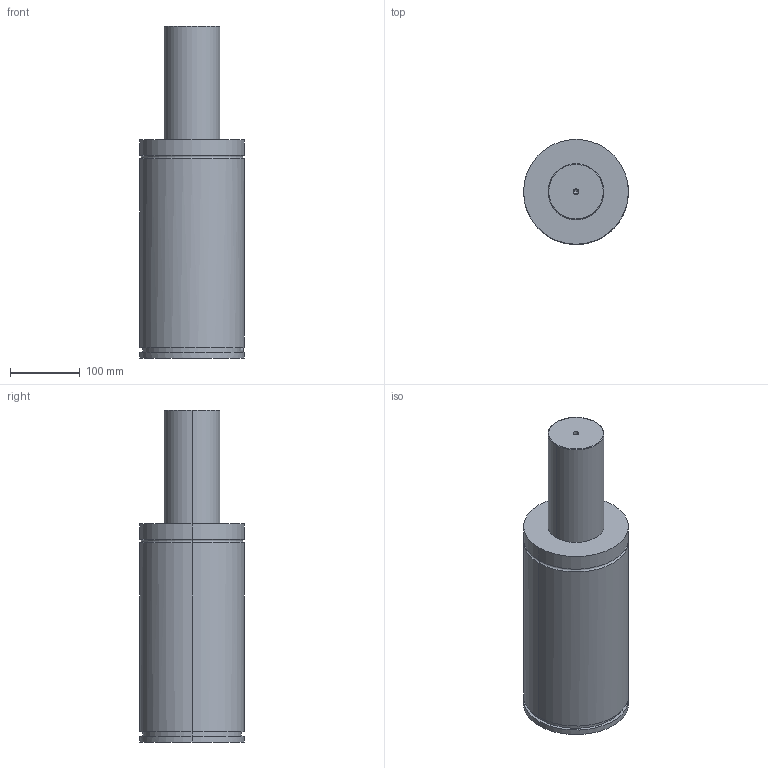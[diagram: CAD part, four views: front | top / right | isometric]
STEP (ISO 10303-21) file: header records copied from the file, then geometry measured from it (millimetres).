
FILE_DESCRIPTION(/* description */ (''),/* implementation_level */ '2;1');
FILE_NAME(/* name */ '3d_gse150-160_03874_r00.stp',/* time_stamp */ '2011-01-10T14:15:20+09:00',/* author */ ('MISUMI'),/* organization */ (''),/* preprocessor_version */ 'ST-DEVELOPER v11',/* originating_system */ 'UGS - NX 5.0',/* authorisation */ '');
FILE_SCHEMA (('CONFIG_CONTROL_DESIGN'));
Length unit declared in the file: millimetre
Products named in the file (1): 3d_gse150-160_03874_r00
Bounding box: 150 x 150 x 475 mm (x, y, z)
Volume: 6306270.2 mm3; surface area: 231679.5 mm2
Topology: 1 solids, 1 shells, 75 faces, 161 edges, 103 vertices
Faces by surface type: cylinder 34, plane 27, cone 10, torus 4
Entity records: 2145 total; most frequent: DIRECTION 393, CARTESIAN_POINT 360, ORIENTED_EDGE 318, AXIS2_PLACEMENT_3D 164, EDGE_CURVE 159, VERTEX_POINT 103, EDGE_LOOP 92, CIRCLE 88
